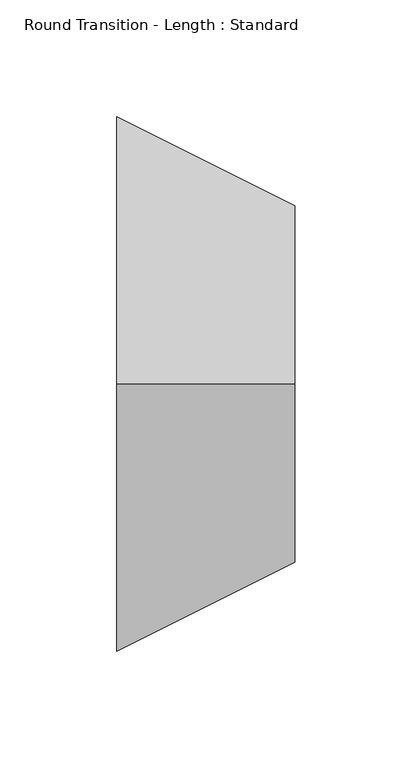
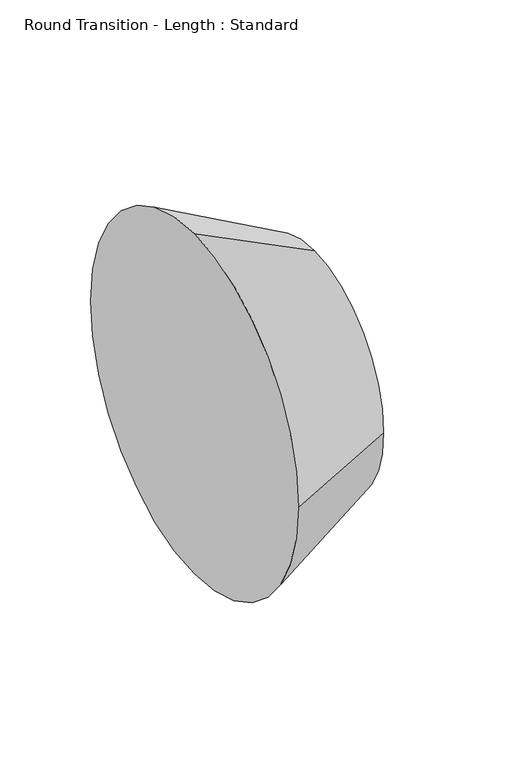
"""IFC4 building model written with IfcOpenShell, lengths in millimetres: duct fitting geometry, Round Transition - Length : Standard."""

from ifc_helpers import new_model, si_unit, frame, origin, place, context, project, spatial, polyline, circle_curve, source, transform, mapped, element, save
from ifc_brep_helpers import plane_surface, revolved_surface, advanced_brep


def round_transition_length_standard_0e983aa8(model_context):
    return source(origin(), model_context, "Body", "AdvancedBrep", [
        advanced_brep(
        [(76.2, 76.2, 0.0), (76.2, 0.0, 76.2), (76.2, -76.2, 0.0), (76.2, 0.0, -76.2), (0.0, 114.3, 0.0), (0.0, 0.0, -114.3), (0.0, -114.3, 0.0), (0.0, 0.0, 114.3)],
        [
            (0, 1, circle_curve(frame((76.2, 0.0, 0.0), z_axis=(1.0, 0.0, 0.0), x_axis=(0.0, 1.0, 0.0)), 76.2)),
            (1, 2, circle_curve(frame((76.2, 0.0, 0.0), z_axis=(1.0, 0.0, 0.0), x_axis=(0.0, 0.0, 1.0)), 76.2)),
            (2, 3, circle_curve(frame((76.2, 0.0, 0.0), z_axis=(1.0, 0.0, 0.0), x_axis=(0.0, -1.0, 0.0)), 76.2)),
            (3, 0, circle_curve(frame((76.2, 0.0, 0.0), z_axis=(1.0, 0.0, 0.0), x_axis=(0.0, 0.0, -1.0)), 76.2)),
            (4, 5, circle_curve(frame((0.0, 0.0, 0.0), z_axis=(-1.0, 0.0, 0.0), x_axis=(0.0, 0.0, -1.0)), 114.3)),
            (5, 6, circle_curve(frame((0.0, 0.0, 0.0), z_axis=(-1.0, 0.0, 0.0), x_axis=(0.0, -1.0, 0.0)), 114.3)),
            (6, 7, circle_curve(frame((0.0, 0.0, 0.0), z_axis=(-1.0, 0.0, 0.0), x_axis=(0.0, 0.0, 1.0)), 114.3)),
            (7, 4, circle_curve(frame((0.0, 0.0, 0.0), z_axis=(-1.0, 0.0, 0.0), x_axis=(0.0, 1.0, 0.0)), 114.3)),
            (0, 4),
            (7, 1),
            (6, 2),
            (5, 3),
        ],
        [
            plane_surface(frame((76.2, 0.0, 0.0), z_axis=(1.0, 0.0, 0.0), x_axis=(0.0, 0.0, 1.0))),
            plane_surface(frame((0.0, 0.0, 0.0), z_axis=(-1.0, 0.0, 0.0), x_axis=(0.0, 0.0, 1.0))),
            revolved_surface(polyline([(76.20000000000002, 76.19999999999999, 0.0), (0.0, 114.3, 0.0)]), (228.6, 0.0, 0.0), (-1.0, 0.0, 0.0)),
            revolved_surface(polyline([(76.20000000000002, 0.0, 76.19999999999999), (0.0, 0.0, 114.3)]), (228.6, 0.0, 0.0), (-1.0, 0.0, 0.0)),
            revolved_surface(polyline([(76.20000000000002, -76.19999999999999, 0.0), (0.0, -114.3, 0.0)]), (228.6, 0.0, 0.0), (-1.0, 0.0, 0.0)),
            revolved_surface(polyline([(76.20000000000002, 0.0, -76.19999999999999), (0.0, 0.0, -114.3)]), (228.6, 0.0, 0.0), (-1.0, 0.0, 0.0)),
        ],
        [
            (0, [[1, 2, 3, 4]]),
            (1, [[5, 6, 7, 8]]),
            (2, [[-1, 9, -8, 10]]),
            (3, [[-2, -10, -7, 11]]),
            (4, [[-3, -11, -6, 12]]),
            (5, [[-4, -12, -5, -9]]),
        ],
    ),
    ])


if __name__ == "__main__":
    model = new_model("IFC4")
    model_context = context("Model", 3, world=origin())
    ifc_project = project(units=[si_unit("LENGTHUNIT", "METRE", prefix="MILLI")], contexts=[model_context])
    site = spatial("IfcSite", under=ifc_project)
    building = spatial("IfcBuilding", under=site)
    placement = place(None, origin())
    round_transition_length_standard_shape = round_transition_length_standard_0e983aa8(model_context)
    element("IfcDuctFitting", 1, ObjectType="Round Transition - Length : Standard", at=placement, inside=building, context=model_context, shape_type="MappedRepresentation", body=[
        mapped(round_transition_length_standard_shape, transform((0.0, 0.0, 0.0), x_axis=(1.0, 0.0, 0.0), y_axis=(0.0, 1.0, 0.0), z_axis=(0.0, 0.0, 1.0))),
    ])
    save(model, "model.ifc")
